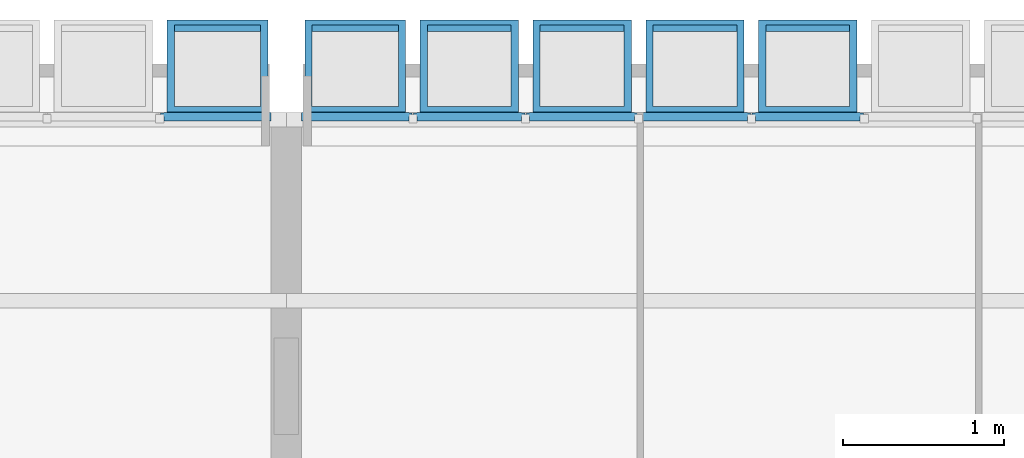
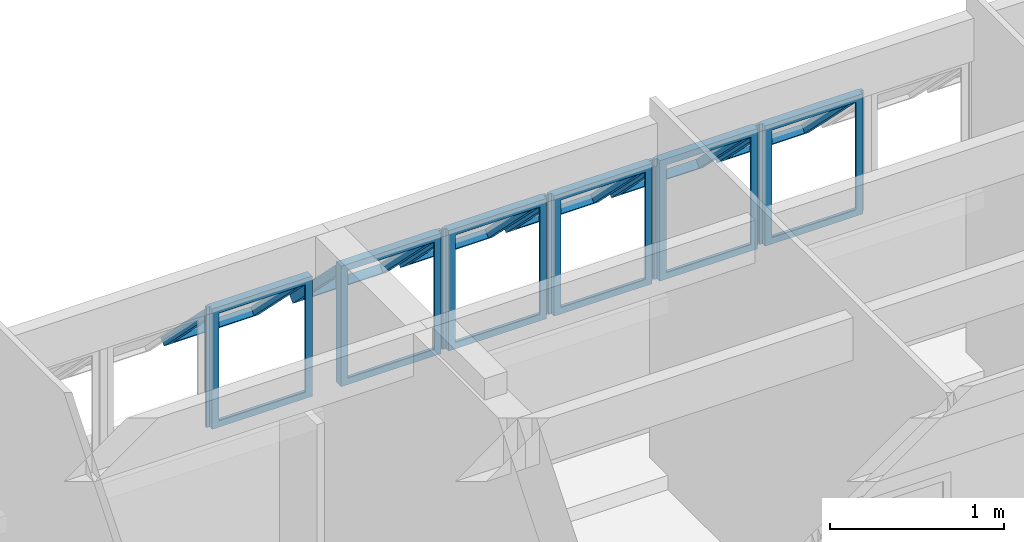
# One storey, part 34 of 37: 6 building element parts, 8 elements without a shape of their own.
"""IFC2X3 building model written with IfcOpenShell, lengths in millimetres."""

from ifc_helpers import new_model, entity, si_unit, converted_unit, derived_unit, money_unit, direction, frame, origin_with_axes, place, context, subcontext, project, spatial, faceted_brep, source, transform, mapped, material, type_object, element, aggregate, save


model = new_model("IFC2X3")

# Units and contexts
model_context = context("Model", 3, precision=0.01, world=origin_with_axes(), true_north=direction((0.0, 1.0)))
body_context = subcontext(model_context, "Body", "Model", "MODEL_VIEW")
ifc_project = project(units=[si_unit("LENGTHUNIT", "METRE", prefix="MILLI"), si_unit("AREAUNIT", "SQUARE_METRE"), si_unit("VOLUMEUNIT", "CUBIC_METRE"), converted_unit("PLANEANGLEUNIT", "DEGREE", entity("IfcPlaneAngleMeasure", 0.0174532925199), si_unit("PLANEANGLEUNIT", "RADIAN"), dimensions=[0, 0, 0, 0, 0, 0, 0]), money_unit("USD"), converted_unit("TIMEUNIT", "Year", entity("IfcTimeMeasure", 31556926.0), si_unit("TIMEUNIT", "SECOND"), dimensions=[0, 0, 1, 0, 0, 0, 0]), si_unit("MASSUNIT", "GRAM", prefix="KILO"), si_unit("THERMODYNAMICTEMPERATUREUNIT", "DEGREE_CELSIUS"), si_unit("LUMINOUSINTENSITYUNIT", "LUMEN"), si_unit("ENERGYUNIT", "JOULE", prefix="MEGA"), derived_unit("THERMALCONDUCTANCEUNIT", [(si_unit("POWERUNIT", "WATT"), 1), (si_unit("LENGTHUNIT", "METRE"), -1), (si_unit("THERMODYNAMICTEMPERATUREUNIT", "KELVIN"), -1)]), derived_unit("SPECIFICHEATCAPACITYUNIT", [(si_unit("ENERGYUNIT", "JOULE"), 1), (si_unit("MASSUNIT", "GRAM", prefix="KILO"), -1), (si_unit("THERMODYNAMICTEMPERATUREUNIT", "KELVIN"), -1)]), derived_unit("MASSDENSITYUNIT", [(si_unit("MASSUNIT", "GRAM", prefix="KILO"), 1), (si_unit("VOLUMEUNIT", "CUBIC_METRE"), -1)])], contexts=[model_context])

# Site, building, storey
site_placement = place(None, origin_with_axes())
site = spatial("IfcSite", under=ifc_project, at=site_placement, Name="Local", CompositionType="ELEMENT")
building_placement = place(site_placement, origin_with_axes())
building = spatial("IfcBuilding", under=site, at=building_placement, Name="Construção", CompositionType="ELEMENT")
storey_placement = place(building_placement, frame((0.0, 0.0, 5300.0), z_axis=(0.0, 0.0, 1.0), x_axis=(1.0, 0.0, 0.0)))
storey = spatial("IfcBuildingStorey", under=building, at=storey_placement, Name="Terceiro Pavimento", CompositionType="ELEMENT", Elevation=5300.0)

# Window, plates, building element parts
window_style = type_object("IfcWindowStyle", Name="Tipo de Parede Cortina", ConstructionType="NOTDEFINED", OperationType="NOTDEFINED", ParameterTakesPrecedence=False, Sizeable=False)
window_1_placement = place(storey_placement, frame((8520.0, 25844.9790225, 1355.02054151), z_axis=(0.0, 0.0, 1.0), x_axis=(1.0, 0.0, 0.0)))
window_1 = element("IfcWindow", 1, at=window_1_placement, inside=storey, type_object=window_style, Name="APTO12-JANELA-001")
plate_type_1 = type_object("IfcPlateType", Name="Painel Principal 690 x 845 x 20", PredefinedType="CURTAIN_PANEL")
plate_1_placement = place(window_1_placement, frame((0.0, 0.0, 422.499945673), z_axis=(0.0, 0.0, 1.0), x_axis=(1.0, 0.0, 0.0)))
plate_1 = element("IfcPlate", 2, at=plate_1_placement, type_object=plate_type_1, Name="APTO12-Painel-Prin-030")
ifc_material = material(Name="Alumínio")
shared_shape_1 = source(origin_with_axes(), body_context, "Body", "Brep", [
    faceted_brep([(25.0000036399, 0.0, -40.0), (674.999997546, 0.0, -40.0), (674.999997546, 0.0, -35.0), (25.0000036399, 0.0, -35.0), (70.0000036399, 45.0, -40.0), (629.999997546, 45.0, -40.0), (629.999997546, 45.0, -35.0), (70.0000036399, 45.0, -35.0)], [[[0, 1, 2, 3]], [[0, 4, 5, 1]], [[1, 5, 6, 2]], [[3, 2, 6, 7]], [[4, 0, 3, 7]], [[5, 4, 7, 6]]]),
    faceted_brep([(674.999997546, 0.0, -40.0), (674.999997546, 844.999891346, -40.0), (674.999997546, 844.999891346, -35.0), (674.999997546, 0.0, -35.0), (629.999997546, 45.0, -40.0), (629.999997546, 799.999891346, -40.0), (629.999997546, 799.999891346, -35.0), (629.999997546, 45.0, -35.0)], [[[0, 1, 2, 3]], [[0, 4, 5, 1]], [[1, 5, 6, 2]], [[3, 2, 6, 7]], [[4, 0, 3, 7]], [[5, 4, 7, 6]]]),
    faceted_brep([(25.0000036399, 844.999891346, -40.0), (70.0000036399, 799.999891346, -40.0), (70.0000036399, 799.999891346, -35.0), (25.0000036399, 844.999891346, -35.0), (674.999997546, 844.999891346, -40.0), (629.999997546, 799.999891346, -40.0), (629.999997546, 799.999891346, -35.0), (674.999997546, 844.999891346, -35.0)], [[[0, 1, 2, 3]], [[0, 4, 5, 1]], [[1, 5, 6, 2]], [[3, 2, 6, 7]], [[4, 0, 3, 7]], [[5, 4, 7, 6]]]),
    faceted_brep([(25.0000036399, 0.0, -40.0), (70.0000036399, 45.0, -40.0), (70.0000036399, 45.0, -35.0), (25.0000036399, 0.0, -35.0), (25.0000036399, 844.999891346, -40.0), (70.0000036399, 799.999891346, -40.0), (70.0000036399, 799.999891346, -35.0), (25.0000036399, 844.999891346, -35.0)], [[[0, 1, 2, 3]], [[0, 4, 5, 1]], [[1, 5, 6, 2]], [[3, 2, 6, 7]], [[4, 0, 3, 7]], [[5, 4, 7, 6]]]),
    faceted_brep([(25.0000036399, 0.0, -35.0), (674.999997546, 0.0, -35.0), (674.999997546, 0.0, 15.0), (25.0000036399, 0.0, 15.0), (45.0000036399, 20.0, -35.0), (654.999997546, 20.0, -35.0), (654.999997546, 20.0, 15.0), (45.0000036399, 20.0, 15.0)], [[[0, 1, 2, 3]], [[0, 4, 5, 1]], [[1, 5, 6, 2]], [[3, 2, 6, 7]], [[4, 0, 3, 7]], [[5, 4, 7, 6]]]),
    faceted_brep([(674.999997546, 0.0, -35.0), (674.999997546, 844.999891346, -35.0), (674.999997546, 844.999891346, 15.0), (674.999997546, 0.0, 15.0), (654.999997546, 20.0, -35.0), (654.999997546, 824.999891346, -35.0), (654.999997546, 824.999891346, 15.0), (654.999997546, 20.0, 15.0)], [[[0, 1, 2, 3]], [[0, 4, 5, 1]], [[1, 5, 6, 2]], [[3, 2, 6, 7]], [[4, 0, 3, 7]], [[5, 4, 7, 6]]]),
    faceted_brep([(25.0000036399, 844.999891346, -35.0), (45.0000036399, 824.999891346, -35.0), (45.0000036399, 824.999891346, 15.0), (25.0000036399, 844.999891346, 15.0), (674.999997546, 844.999891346, -35.0), (654.999997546, 824.999891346, -35.0), (654.999997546, 824.999891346, 15.0), (674.999997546, 844.999891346, 15.0)], [[[0, 1, 2, 3]], [[0, 4, 5, 1]], [[1, 5, 6, 2]], [[3, 2, 6, 7]], [[4, 0, 3, 7]], [[5, 4, 7, 6]]]),
    faceted_brep([(25.0000036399, 0.0, -35.0), (45.0000036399, 20.0, -35.0), (45.0000036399, 20.0, 15.0), (25.0000036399, 0.0, 15.0), (25.0000036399, 844.999891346, -35.0), (45.0000036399, 824.999891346, -35.0), (45.0000036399, 824.999891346, 15.0), (25.0000036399, 844.999891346, 15.0)], [[[0, 1, 2, 3]], [[0, 4, 5, 1]], [[1, 5, 6, 2]], [[3, 2, 6, 7]], [[4, 0, 3, 7]], [[5, 4, 7, 6]]]),
    faceted_brep([(694.999995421, 0.0, -10.0), (694.999995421, 844.999891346, -10.0), (694.999995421, 844.999891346, 10.0), (694.999995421, 0.0, 10.0), (674.999997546, 0.0, -10.0), (674.999997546, 844.999891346, -10.0), (674.999997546, 844.999891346, 10.0), (674.999997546, 0.0, 10.0)], [[[0, 1, 2, 3]], [[0, 4, 5, 1]], [[1, 5, 6, 2]], [[3, 2, 6, 7]], [[4, 0, 3, 7]], [[5, 4, 7, 6]]]),
    faceted_brep([(5.00000576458, 844.999891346, -10.0), (5.00000576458, 0.0, -10.0), (5.00000576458, 0.0, 10.0), (5.00000576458, 844.999891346, 10.0), (25.0000036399, 844.999891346, -10.0), (25.0000036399, 0.0, -10.0), (25.0000036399, 0.0, 10.0), (25.0000036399, 844.999891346, 10.0)], [[[0, 1, 2, 3]], [[0, 4, 5, 1]], [[1, 5, 6, 2]], [[3, 2, 6, 7]], [[4, 0, 3, 7]], [[5, 4, 7, 6]]]),
    faceted_brep([(90.0000036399, 252.243475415, 517.045737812), (90.0000036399, 757.824747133, 11.4644660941), (90.0000036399, 796.715620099, 50.3553390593), (90.0000036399, 291.13434838, 555.936610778), (45.0000036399, 220.423670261, 548.865542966), (45.0000036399, 789.644552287, -20.3553390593), (45.0000036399, 828.535425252, 18.5355339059), (45.0000036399, 259.314543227, 587.756415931)], [[[0, 1, 2, 3]], [[0, 4, 5, 1]], [[1, 5, 6, 2]], [[3, 2, 6, 7]], [[4, 0, 3, 7]], [[5, 4, 7, 6]]]),
    faceted_brep([(654.999997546, 220.423670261, 548.865542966), (654.999997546, 789.644552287, -20.3553390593), (654.999997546, 828.535425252, 18.5355339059), (654.999997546, 259.314543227, 587.756415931), (609.999997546, 252.243475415, 517.045737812), (609.999997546, 757.824747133, 11.4644660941), (609.999997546, 796.715620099, 50.3553390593), (609.999997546, 291.13434838, 555.936610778)], [[[0, 1, 2, 3]], [[0, 4, 5, 1]], [[1, 5, 6, 2]], [[3, 2, 6, 7]], [[4, 0, 3, 7]], [[5, 4, 7, 6]]]),
    faceted_brep([(654.999997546, 220.423670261, 548.865542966), (609.999997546, 252.243475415, 517.045737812), (609.999997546, 291.13434838, 555.936610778), (654.999997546, 259.314543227, 587.756415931), (45.0000036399, 220.423670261, 548.865542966), (90.0000036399, 252.243475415, 517.045737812), (90.0000036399, 291.13434838, 555.936610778), (45.0000036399, 259.314543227, 587.756415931)], [[[0, 1, 2, 3]], [[0, 4, 5, 1]], [[1, 5, 6, 2]], [[3, 2, 6, 7]], [[4, 0, 3, 7]], [[5, 4, 7, 6]]]),
    faceted_brep([(45.0000036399, 789.644552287, -20.3553390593), (90.0000036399, 757.824747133, 11.4644660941), (90.0000036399, 796.715620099, 50.3553390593), (45.0000036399, 828.535425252, 18.5355339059), (654.999997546, 789.644552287, -20.3553390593), (609.999997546, 757.824747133, 11.4644660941), (609.999997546, 796.715620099, 50.3553390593), (654.999997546, 828.535425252, 18.5355339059)], [[[0, 1, 2, 3]], [[0, 4, 5, 1]], [[1, 5, 6, 2]], [[3, 2, 6, 7]], [[4, 0, 3, 7]], [[5, 4, 7, 6]]]),
])
building_element_part_1_placement = place(plate_1_placement, origin_with_axes())
building_element_part_1 = element("IfcBuildingElementPart", 3, at=building_element_part_1_placement, material=ifc_material, Name="Alumínio", context=body_context, shape_type="MappedRepresentation", body=[
    mapped(shared_shape_1, transform((350.0, 0.0, -422.499945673), x_axis=(-1.0, 0.0, 0.0), y_axis=(0.0, 0.0, 1.0), z_axis=(0.0, 1.0, 0.0))),
])
aggregate(plate_1, [building_element_part_1])
plate_2_placement = place(window_1_placement, frame((700.0, 0.0, 422.499945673), z_axis=(0.0, 0.0, 1.0), x_axis=(1.0, 0.0, 0.0)))
plate_2 = element("IfcPlate", 4, at=plate_2_placement, type_object=plate_type_1, Name="APTO12-Painel-Prin-020")
building_element_part_2_placement = place(plate_2_placement, origin_with_axes())
building_element_part_2 = element("IfcBuildingElementPart", 5, at=building_element_part_2_placement, material=ifc_material, Name="Alumínio", context=body_context, shape_type="MappedRepresentation", body=[
    mapped(shared_shape_1, transform((350.0, 0.0, -422.499945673), x_axis=(-1.0, 0.0, 0.0), y_axis=(0.0, 0.0, 1.0), z_axis=(0.0, 1.0, 0.0))),
])
aggregate(plate_2, [building_element_part_2])
plate_3_placement = place(window_1_placement, frame((1400.0, 0.0, 422.499945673), z_axis=(0.0, 0.0, 1.0), x_axis=(1.0, 0.0, 0.0)))
plate_3 = element("IfcPlate", 6, at=plate_3_placement, type_object=plate_type_1, Name="APTO12-Painel-Prin-029")
building_element_part_3_placement = place(plate_3_placement, origin_with_axes())
building_element_part_3 = element("IfcBuildingElementPart", 7, at=building_element_part_3_placement, material=ifc_material, Name="Alumínio", context=body_context, shape_type="MappedRepresentation", body=[
    mapped(shared_shape_1, transform((350.0, 0.0, -422.499945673), x_axis=(-1.0, 0.0, 0.0), y_axis=(0.0, 0.0, 1.0), z_axis=(0.0, 1.0, 0.0))),
])
aggregate(plate_3, [building_element_part_3])
plate_type_2 = type_object("IfcPlateType", Name="Painel Principal 685 x 845 x 20", PredefinedType="CURTAIN_PANEL")
plate_4_placement = place(window_1_placement, frame((-695.000037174, 0.0, 422.499953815), z_axis=(0.0, 0.0, 1.0), x_axis=(1.0, 0.0, 0.0)))
plate_4 = element("IfcPlate", 8, at=plate_4_placement, type_object=plate_type_2, Name="APTO12-Painel-Prin-031")
shared_shape_2 = source(origin_with_axes(), body_context, "Body", "Brep", [
    faceted_brep([(25.0000046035, 0.0, -40.0), (690.000079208, 0.0, -40.0), (690.000079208, 0.0, -35.0), (25.0000046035, 0.0, -35.0), (70.0000046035, 45.0, -40.0), (645.000079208, 45.0, -40.0), (645.000079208, 45.0, -35.0), (70.0000046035, 45.0, -35.0)], [[[0, 1, 2, 3]], [[0, 4, 5, 1]], [[1, 5, 6, 2]], [[3, 2, 6, 7]], [[4, 0, 3, 7]], [[5, 4, 7, 6]]]),
    faceted_brep([(690.000079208, 0.0, -40.0), (690.000079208, 844.999923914, -40.0), (690.000079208, 844.999923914, -35.0), (690.000079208, 0.0, -35.0), (645.000079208, 45.0, -40.0), (645.000079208, 799.999923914, -40.0), (645.000079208, 799.999923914, -35.0), (645.000079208, 45.0, -35.0)], [[[0, 1, 2, 3]], [[0, 4, 5, 1]], [[1, 5, 6, 2]], [[3, 2, 6, 7]], [[4, 0, 3, 7]], [[5, 4, 7, 6]]]),
    faceted_brep([(25.0000046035, 844.999923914, -40.0), (70.0000046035, 799.999923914, -40.0), (70.0000046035, 799.999923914, -35.0), (25.0000046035, 844.999923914, -35.0), (690.000079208, 844.999923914, -40.0), (645.000079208, 799.999923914, -40.0), (645.000079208, 799.999923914, -35.0), (690.000079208, 844.999923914, -35.0)], [[[0, 1, 2, 3]], [[0, 4, 5, 1]], [[1, 5, 6, 2]], [[3, 2, 6, 7]], [[4, 0, 3, 7]], [[5, 4, 7, 6]]]),
    faceted_brep([(25.0000046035, 0.0, -40.0), (70.0000046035, 45.0, -40.0), (70.0000046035, 45.0, -35.0), (25.0000046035, 0.0, -35.0), (25.0000046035, 844.999923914, -40.0), (70.0000046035, 799.999923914, -40.0), (70.0000046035, 799.999923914, -35.0), (25.0000046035, 844.999923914, -35.0)], [[[0, 1, 2, 3]], [[0, 4, 5, 1]], [[1, 5, 6, 2]], [[3, 2, 6, 7]], [[4, 0, 3, 7]], [[5, 4, 7, 6]]]),
    faceted_brep([(25.0000046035, 0.0, -35.0), (690.000079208, 0.0, -35.0), (690.000079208, 0.0, 15.0), (25.0000046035, 0.0, 15.0), (45.0000046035, 20.0, -35.0), (670.000079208, 20.0, -35.0), (670.000079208, 20.0, 15.0), (45.0000046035, 20.0, 15.0)], [[[0, 1, 2, 3]], [[0, 4, 5, 1]], [[1, 5, 6, 2]], [[3, 2, 6, 7]], [[4, 0, 3, 7]], [[5, 4, 7, 6]]]),
    faceted_brep([(690.000079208, 0.0, -35.0), (690.000079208, 844.999923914, -35.0), (690.000079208, 844.999923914, 15.0), (690.000079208, 0.0, 15.0), (670.000079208, 20.0, -35.0), (670.000079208, 824.999923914, -35.0), (670.000079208, 824.999923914, 15.0), (670.000079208, 20.0, 15.0)], [[[0, 1, 2, 3]], [[0, 4, 5, 1]], [[1, 5, 6, 2]], [[3, 2, 6, 7]], [[4, 0, 3, 7]], [[5, 4, 7, 6]]]),
    faceted_brep([(25.0000046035, 844.999923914, -35.0), (45.0000046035, 824.999923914, -35.0), (45.0000046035, 824.999923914, 15.0), (25.0000046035, 844.999923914, 15.0), (690.000079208, 844.999923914, -35.0), (670.000079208, 824.999923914, -35.0), (670.000079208, 824.999923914, 15.0), (690.000079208, 844.999923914, 15.0)], [[[0, 1, 2, 3]], [[0, 4, 5, 1]], [[1, 5, 6, 2]], [[3, 2, 6, 7]], [[4, 0, 3, 7]], [[5, 4, 7, 6]]]),
    faceted_brep([(25.0000046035, 0.0, -35.0), (45.0000046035, 20.0, -35.0), (45.0000046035, 20.0, 15.0), (25.0000046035, 0.0, 15.0), (25.0000046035, 844.999923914, -35.0), (45.0000046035, 824.999923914, -35.0), (45.0000046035, 824.999923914, 15.0), (25.0000046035, 844.999923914, 15.0)], [[[0, 1, 2, 3]], [[0, 4, 5, 1]], [[1, 5, 6, 2]], [[3, 2, 6, 7]], [[4, 0, 3, 7]], [[5, 4, 7, 6]]]),
    faceted_brep([(5.00000595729, 844.999923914, -10.0), (5.00000595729, 0.0, -10.0), (5.00000595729, 0.0, 10.0), (5.00000595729, 844.999923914, 10.0), (25.0000046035, 844.999923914, -10.0), (25.0000046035, 0.0, -10.0), (25.0000046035, 0.0, 10.0), (25.0000046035, 844.999923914, 10.0)], [[[0, 1, 2, 3]], [[0, 4, 5, 1]], [[1, 5, 6, 2]], [[3, 2, 6, 7]], [[4, 0, 3, 7]], [[5, 4, 7, 6]]]),
    faceted_brep([(90.0000046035, 252.243484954, 517.045760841), (90.0000046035, 757.824779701, 11.4644660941), (90.0000046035, 796.715652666, 50.3553390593), (90.0000046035, 291.134357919, 555.936633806), (45.0000046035, 220.4236798, 548.865565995), (45.0000046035, 789.644584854, -20.3553390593), (45.0000046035, 828.535457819, 18.5355339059), (45.0000046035, 259.314552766, 587.75643896)], [[[0, 1, 2, 3]], [[0, 4, 5, 1]], [[1, 5, 6, 2]], [[3, 2, 6, 7]], [[4, 0, 3, 7]], [[5, 4, 7, 6]]]),
    faceted_brep([(670.000079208, 220.4236798, 548.865565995), (670.000079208, 789.644584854, -20.3553390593), (670.000079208, 828.535457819, 18.5355339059), (670.000079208, 259.314552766, 587.75643896), (625.000079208, 252.243484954, 517.045760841), (625.000079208, 757.824779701, 11.4644660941), (625.000079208, 796.715652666, 50.3553390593), (625.000079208, 291.134357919, 555.936633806)], [[[0, 1, 2, 3]], [[0, 4, 5, 1]], [[1, 5, 6, 2]], [[3, 2, 6, 7]], [[4, 0, 3, 7]], [[5, 4, 7, 6]]]),
    faceted_brep([(670.000079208, 220.4236798, 548.865565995), (625.000079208, 252.243484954, 517.045760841), (625.000079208, 291.134357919, 555.936633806), (670.000079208, 259.314552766, 587.75643896), (45.0000046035, 220.4236798, 548.865565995), (90.0000046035, 252.243484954, 517.045760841), (90.0000046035, 291.134357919, 555.936633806), (45.0000046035, 259.314552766, 587.75643896)], [[[0, 1, 2, 3]], [[0, 4, 5, 1]], [[1, 5, 6, 2]], [[3, 2, 6, 7]], [[4, 0, 3, 7]], [[5, 4, 7, 6]]]),
    faceted_brep([(45.0000046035, 789.644584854, -20.3553390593), (90.0000046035, 757.824779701, 11.4644660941), (90.0000046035, 796.715652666, 50.3553390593), (45.0000046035, 828.535457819, 18.5355339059), (670.000079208, 789.644584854, -20.3553390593), (625.000079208, 757.824779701, 11.4644660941), (625.000079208, 796.715652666, 50.3553390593), (670.000079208, 828.535457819, 18.5355339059)], [[[0, 1, 2, 3]], [[0, 4, 5, 1]], [[1, 5, 6, 2]], [[3, 2, 6, 7]], [[4, 0, 3, 7]], [[5, 4, 7, 6]]]),
])
building_element_part_4_placement = place(plate_4_placement, origin_with_axes())
building_element_part_4 = element("IfcBuildingElementPart", 9, at=building_element_part_4_placement, material=ifc_material, Name="Alumínio", context=body_context, shape_type="MappedRepresentation", body=[
    mapped(shared_shape_2, transform((345.000037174, 0.0, -422.499953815), x_axis=(-1.0, 0.0, 0.0), y_axis=(0.0, 0.0, 1.0), z_axis=(0.0, 1.0, 0.0))),
])
aggregate(plate_4, [building_element_part_4])
plate_5_placement = place(window_1_placement, frame((2100.0, 0.0, 422.499945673), z_axis=(0.0, 0.0, 1.0), x_axis=(1.0, 0.0, 0.0)))
plate_5 = element("IfcPlate", 10, at=plate_5_placement, type_object=plate_type_1, Name="APTO12-Painel-Prin-025")
aggregate(window_1, [plate_1, plate_4, plate_5, plate_2, plate_3])
shared_shape_3 = source(origin_with_axes(), body_context, "Body", "Brep", [
    faceted_brep([(25.0000036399, 0.0, -40.0), (674.999997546, 0.0, -40.0), (674.999997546, 0.0, -35.0), (25.0000036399, 0.0, -35.0), (70.0000036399, 45.0, -40.0), (629.999997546, 45.0, -40.0), (629.999997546, 45.0, -35.0), (70.0000036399, 45.0, -35.0)], [[[0, 1, 2, 3]], [[0, 4, 5, 1]], [[1, 5, 6, 2]], [[3, 2, 6, 7]], [[4, 0, 3, 7]], [[5, 4, 7, 6]]]),
    faceted_brep([(674.999997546, 0.0, -40.0), (674.999997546, 844.999891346, -40.0), (674.999997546, 844.999891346, -35.0), (674.999997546, 0.0, -35.0), (629.999997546, 45.0, -40.0), (629.999997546, 799.999891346, -40.0), (629.999997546, 799.999891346, -35.0), (629.999997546, 45.0, -35.0)], [[[0, 1, 2, 3]], [[0, 4, 5, 1]], [[1, 5, 6, 2]], [[3, 2, 6, 7]], [[4, 0, 3, 7]], [[5, 4, 7, 6]]]),
    faceted_brep([(25.0000036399, 844.999891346, -40.0), (70.0000036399, 799.999891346, -40.0), (70.0000036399, 799.999891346, -35.0), (25.0000036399, 844.999891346, -35.0), (674.999997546, 844.999891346, -40.0), (629.999997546, 799.999891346, -40.0), (629.999997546, 799.999891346, -35.0), (674.999997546, 844.999891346, -35.0)], [[[0, 1, 2, 3]], [[0, 4, 5, 1]], [[1, 5, 6, 2]], [[3, 2, 6, 7]], [[4, 0, 3, 7]], [[5, 4, 7, 6]]]),
    faceted_brep([(25.0000036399, 0.0, -40.0), (70.0000036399, 45.0, -40.0), (70.0000036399, 45.0, -35.0), (25.0000036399, 0.0, -35.0), (25.0000036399, 844.999891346, -40.0), (70.0000036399, 799.999891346, -40.0), (70.0000036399, 799.999891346, -35.0), (25.0000036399, 844.999891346, -35.0)], [[[0, 1, 2, 3]], [[0, 4, 5, 1]], [[1, 5, 6, 2]], [[3, 2, 6, 7]], [[4, 0, 3, 7]], [[5, 4, 7, 6]]]),
    faceted_brep([(25.0000036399, 0.0, -35.0), (674.999997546, 0.0, -35.0), (674.999997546, 0.0, 15.0), (25.0000036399, 0.0, 15.0), (45.0000036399, 20.0, -35.0), (654.999997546, 20.0, -35.0), (654.999997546, 20.0, 15.0), (45.0000036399, 20.0, 15.0)], [[[0, 1, 2, 3]], [[0, 4, 5, 1]], [[1, 5, 6, 2]], [[3, 2, 6, 7]], [[4, 0, 3, 7]], [[5, 4, 7, 6]]]),
    faceted_brep([(674.999997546, 0.0, -35.0), (674.999997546, 844.999891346, -35.0), (674.999997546, 844.999891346, 15.0), (674.999997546, 0.0, 15.0), (654.999997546, 20.0, -35.0), (654.999997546, 824.999891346, -35.0), (654.999997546, 824.999891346, 15.0), (654.999997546, 20.0, 15.0)], [[[0, 1, 2, 3]], [[0, 4, 5, 1]], [[1, 5, 6, 2]], [[3, 2, 6, 7]], [[4, 0, 3, 7]], [[5, 4, 7, 6]]]),
    faceted_brep([(25.0000036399, 844.999891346, -35.0), (45.0000036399, 824.999891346, -35.0), (45.0000036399, 824.999891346, 15.0), (25.0000036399, 844.999891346, 15.0), (674.999997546, 844.999891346, -35.0), (654.999997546, 824.999891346, -35.0), (654.999997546, 824.999891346, 15.0), (674.999997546, 844.999891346, 15.0)], [[[0, 1, 2, 3]], [[0, 4, 5, 1]], [[1, 5, 6, 2]], [[3, 2, 6, 7]], [[4, 0, 3, 7]], [[5, 4, 7, 6]]]),
    faceted_brep([(25.0000036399, 0.0, -35.0), (45.0000036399, 20.0, -35.0), (45.0000036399, 20.0, 15.0), (25.0000036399, 0.0, 15.0), (25.0000036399, 844.999891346, -35.0), (45.0000036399, 824.999891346, -35.0), (45.0000036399, 824.999891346, 15.0), (25.0000036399, 844.999891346, 15.0)], [[[0, 1, 2, 3]], [[0, 4, 5, 1]], [[1, 5, 6, 2]], [[3, 2, 6, 7]], [[4, 0, 3, 7]], [[5, 4, 7, 6]]]),
    faceted_brep([(694.999995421, 0.0, -10.0), (694.999995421, 844.999891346, -10.0), (694.999995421, 844.999891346, 10.0), (694.999995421, 0.0, 10.0), (674.999997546, 0.0, -10.0), (674.999997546, 844.999891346, -10.0), (674.999997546, 844.999891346, 10.0), (674.999997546, 0.0, 10.0)], [[[0, 1, 2, 3]], [[0, 4, 5, 1]], [[1, 5, 6, 2]], [[3, 2, 6, 7]], [[4, 0, 3, 7]], [[5, 4, 7, 6]]]),
    faceted_brep([(5.00000576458, 844.999891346, -10.0), (5.00000576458, 0.0, -10.0), (5.00000576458, 0.0, 10.0), (5.00000576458, 844.999891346, 10.0), (25.0000036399, 844.999891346, -10.0), (25.0000036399, 0.0, -10.0), (25.0000036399, 0.0, 10.0), (25.0000036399, 844.999891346, 10.0)], [[[0, 1, 2, 3]], [[0, 4, 5, 1]], [[1, 5, 6, 2]], [[3, 2, 6, 7]], [[4, 0, 3, 7]], [[5, 4, 7, 6]]]),
    faceted_brep([(90.0000036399, 252.243475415, 517.045737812), (90.0000036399, 757.824747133, 11.4644660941), (90.0000036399, 796.715620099, 50.3553390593), (90.0000036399, 291.13434838, 555.936610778), (45.0000036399, 220.423670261, 548.865542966), (45.0000036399, 789.644552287, -20.3553390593), (45.0000036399, 828.535425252, 18.5355339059), (45.0000036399, 259.314543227, 587.756415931)], [[[0, 1, 2, 3]], [[0, 4, 5, 1]], [[1, 5, 6, 2]], [[3, 2, 6, 7]], [[4, 0, 3, 7]], [[5, 4, 7, 6]]]),
    faceted_brep([(654.999997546, 220.423670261, 548.865542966), (654.999997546, 789.644552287, -20.3553390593), (654.999997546, 828.535425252, 18.5355339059), (654.999997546, 259.314543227, 587.756415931), (609.999997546, 252.243475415, 517.045737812), (609.999997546, 757.824747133, 11.4644660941), (609.999997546, 796.715620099, 50.3553390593), (609.999997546, 291.13434838, 555.936610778)], [[[0, 1, 2, 3]], [[0, 4, 5, 1]], [[1, 5, 6, 2]], [[3, 2, 6, 7]], [[4, 0, 3, 7]], [[5, 4, 7, 6]]]),
    faceted_brep([(654.999997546, 220.423670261, 548.865542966), (609.999997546, 252.243475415, 517.045737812), (609.999997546, 291.13434838, 555.936610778), (654.999997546, 259.314543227, 587.756415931), (45.0000036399, 220.423670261, 548.865542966), (90.0000036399, 252.243475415, 517.045737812), (90.0000036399, 291.13434838, 555.936610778), (45.0000036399, 259.314543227, 587.756415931)], [[[0, 1, 2, 3]], [[0, 4, 5, 1]], [[1, 5, 6, 2]], [[3, 2, 6, 7]], [[4, 0, 3, 7]], [[5, 4, 7, 6]]]),
    faceted_brep([(45.0000036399, 789.644552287, -20.3553390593), (90.0000036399, 757.824747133, 11.4644660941), (90.0000036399, 796.715620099, 50.3553390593), (45.0000036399, 828.535425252, 18.5355339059), (654.999997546, 789.644552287, -20.3553390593), (609.999997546, 757.824747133, 11.4644660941), (609.999997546, 796.715620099, 50.3553390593), (654.999997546, 828.535425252, 18.5355339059)], [[[0, 1, 2, 3]], [[0, 4, 5, 1]], [[1, 5, 6, 2]], [[3, 2, 6, 7]], [[4, 0, 3, 7]], [[5, 4, 7, 6]]]),
])
building_element_part_5_placement = place(plate_5_placement, origin_with_axes())
building_element_part_5 = element("IfcBuildingElementPart", 11, at=building_element_part_5_placement, material=ifc_material, Name="Alumínio", context=body_context, shape_type="MappedRepresentation", body=[
    mapped(shared_shape_3, transform((350.0, 0.0, -422.499945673), x_axis=(-1.0, 0.0, 0.0), y_axis=(0.0, 0.0, 1.0), z_axis=(0.0, 1.0, 0.0))),
])
aggregate(plate_5, [building_element_part_5])

# Window, plate, building element part
window_2_placement = place(storey_placement, frame((6250.0, 25844.9790225, 1355.02054151), z_axis=(0.0, 0.0, 1.0), x_axis=(1.0, 0.0, 0.0)))
window_2 = element("IfcWindow", 12, at=window_2_placement, inside=storey, type_object=window_style, Name="APTO11-JANELA-001")
plate_6_placement = place(window_2_placement, frame((695.000037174, 0.0, 422.499953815), z_axis=(0.0, 0.0, 1.0), x_axis=(-1.0, 0.0, 0.0)))
plate_6 = element("IfcPlate", 13, at=plate_6_placement, type_object=plate_type_2, Name="APTO11-Painel-Prin-031")
aggregate(window_2, [plate_6])
shared_shape_4 = source(origin_with_axes(), body_context, "Body", "Brep", [
    faceted_brep([(-25.0000046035, 0.0, -40.0), (-25.0000046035, 0.0, -35.0), (-690.000079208, 0.0, -35.0), (-690.000079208, 0.0, -40.0), (-70.0000046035, 45.0, -40.0), (-70.0000046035, 45.0, -35.0), (-645.000079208, 45.0, -35.0), (-645.000079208, 45.0, -40.0)], [[[0, 1, 2, 3]], [[4, 5, 1, 0]], [[1, 5, 6, 2]], [[3, 2, 6, 7]], [[0, 3, 7, 4]], [[7, 6, 5, 4]]]),
    faceted_brep([(-690.000079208, 0.0, -40.0), (-690.000079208, 0.0, -35.0), (-690.000079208, 844.999923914, -35.0), (-690.000079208, 844.999923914, -40.0), (-645.000079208, 45.0, -40.0), (-645.000079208, 45.0, -35.0), (-645.000079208, 799.999923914, -35.0), (-645.000079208, 799.999923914, -40.0)], [[[0, 1, 2, 3]], [[4, 5, 1, 0]], [[1, 5, 6, 2]], [[3, 2, 6, 7]], [[0, 3, 7, 4]], [[7, 6, 5, 4]]]),
    faceted_brep([(-25.0000046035, 844.999923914, -40.0), (-25.0000046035, 844.999923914, -35.0), (-70.0000046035, 799.999923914, -35.0), (-70.0000046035, 799.999923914, -40.0), (-690.000079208, 844.999923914, -40.0), (-690.000079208, 844.999923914, -35.0), (-645.000079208, 799.999923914, -35.0), (-645.000079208, 799.999923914, -40.0)], [[[0, 1, 2, 3]], [[4, 5, 1, 0]], [[1, 5, 6, 2]], [[3, 2, 6, 7]], [[0, 3, 7, 4]], [[7, 6, 5, 4]]]),
    faceted_brep([(-25.0000046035, 0.0, -40.0), (-25.0000046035, 0.0, -35.0), (-70.0000046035, 45.0, -35.0), (-70.0000046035, 45.0, -40.0), (-25.0000046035, 844.999923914, -40.0), (-25.0000046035, 844.999923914, -35.0), (-70.0000046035, 799.999923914, -35.0), (-70.0000046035, 799.999923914, -40.0)], [[[0, 1, 2, 3]], [[4, 5, 1, 0]], [[1, 5, 6, 2]], [[3, 2, 6, 7]], [[0, 3, 7, 4]], [[7, 6, 5, 4]]]),
    faceted_brep([(-25.0000046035, 0.0, -35.0), (-25.0000046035, 0.0, 15.0), (-690.000079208, 0.0, 15.0), (-690.000079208, 0.0, -35.0), (-45.0000046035, 20.0, -35.0), (-45.0000046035, 20.0, 15.0), (-670.000079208, 20.0, 15.0), (-670.000079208, 20.0, -35.0)], [[[0, 1, 2, 3]], [[4, 5, 1, 0]], [[1, 5, 6, 2]], [[3, 2, 6, 7]], [[0, 3, 7, 4]], [[7, 6, 5, 4]]]),
    faceted_brep([(-690.000079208, 0.0, -35.0), (-690.000079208, 0.0, 15.0), (-690.000079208, 844.999923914, 15.0), (-690.000079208, 844.999923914, -35.0), (-670.000079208, 20.0, -35.0), (-670.000079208, 20.0, 15.0), (-670.000079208, 824.999923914, 15.0), (-670.000079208, 824.999923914, -35.0)], [[[0, 1, 2, 3]], [[4, 5, 1, 0]], [[1, 5, 6, 2]], [[3, 2, 6, 7]], [[0, 3, 7, 4]], [[7, 6, 5, 4]]]),
    faceted_brep([(-25.0000046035, 844.999923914, -35.0), (-25.0000046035, 844.999923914, 15.0), (-45.0000046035, 824.999923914, 15.0), (-45.0000046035, 824.999923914, -35.0), (-690.000079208, 844.999923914, -35.0), (-690.000079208, 844.999923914, 15.0), (-670.000079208, 824.999923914, 15.0), (-670.000079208, 824.999923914, -35.0)], [[[0, 1, 2, 3]], [[4, 5, 1, 0]], [[1, 5, 6, 2]], [[3, 2, 6, 7]], [[0, 3, 7, 4]], [[7, 6, 5, 4]]]),
    faceted_brep([(-25.0000046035, 0.0, -35.0), (-25.0000046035, 0.0, 15.0), (-45.0000046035, 20.0, 15.0), (-45.0000046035, 20.0, -35.0), (-25.0000046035, 844.999923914, -35.0), (-25.0000046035, 844.999923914, 15.0), (-45.0000046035, 824.999923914, 15.0), (-45.0000046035, 824.999923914, -35.0)], [[[0, 1, 2, 3]], [[4, 5, 1, 0]], [[1, 5, 6, 2]], [[3, 2, 6, 7]], [[0, 3, 7, 4]], [[7, 6, 5, 4]]]),
    faceted_brep([(-5.00000595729, 844.999923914, -10.0), (-5.00000595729, 844.999923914, 10.0), (-5.00000595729, 0.0, 10.0), (-5.00000595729, 0.0, -10.0), (-25.0000046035, 844.999923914, -10.0), (-25.0000046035, 844.999923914, 10.0), (-25.0000046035, 0.0, 10.0), (-25.0000046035, 0.0, -10.0)], [[[0, 1, 2, 3]], [[4, 5, 1, 0]], [[1, 5, 6, 2]], [[3, 2, 6, 7]], [[0, 3, 7, 4]], [[7, 6, 5, 4]]]),
    faceted_brep([(-90.0000046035, 252.243484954, 517.045760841), (-90.0000046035, 291.134357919, 555.936633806), (-90.0000046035, 796.715652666, 50.3553390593), (-90.0000046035, 757.824779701, 11.4644660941), (-45.0000046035, 220.4236798, 548.865565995), (-45.0000046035, 259.314552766, 587.75643896), (-45.0000046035, 828.535457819, 18.5355339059), (-45.0000046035, 789.644584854, -20.3553390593)], [[[0, 1, 2, 3]], [[4, 5, 1, 0]], [[1, 5, 6, 2]], [[3, 2, 6, 7]], [[0, 3, 7, 4]], [[7, 6, 5, 4]]]),
    faceted_brep([(-670.000079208, 220.4236798, 548.865565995), (-670.000079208, 259.314552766, 587.75643896), (-670.000079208, 828.535457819, 18.5355339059), (-670.000079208, 789.644584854, -20.3553390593), (-625.000079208, 252.243484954, 517.045760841), (-625.000079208, 291.134357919, 555.936633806), (-625.000079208, 796.715652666, 50.3553390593), (-625.000079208, 757.824779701, 11.4644660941)], [[[0, 1, 2, 3]], [[4, 5, 1, 0]], [[1, 5, 6, 2]], [[3, 2, 6, 7]], [[0, 3, 7, 4]], [[7, 6, 5, 4]]]),
    faceted_brep([(-670.000079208, 220.4236798, 548.865565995), (-670.000079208, 259.314552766, 587.75643896), (-625.000079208, 291.134357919, 555.936633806), (-625.000079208, 252.243484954, 517.045760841), (-45.0000046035, 220.4236798, 548.865565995), (-45.0000046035, 259.314552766, 587.75643896), (-90.0000046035, 291.134357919, 555.936633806), (-90.0000046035, 252.243484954, 517.045760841)], [[[0, 1, 2, 3]], [[4, 5, 1, 0]], [[1, 5, 6, 2]], [[3, 2, 6, 7]], [[0, 3, 7, 4]], [[7, 6, 5, 4]]]),
    faceted_brep([(-45.0000046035, 789.644584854, -20.3553390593), (-45.0000046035, 828.535457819, 18.5355339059), (-90.0000046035, 796.715652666, 50.3553390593), (-90.0000046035, 757.824779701, 11.4644660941), (-670.000079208, 789.644584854, -20.3553390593), (-670.000079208, 828.535457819, 18.5355339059), (-625.000079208, 796.715652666, 50.3553390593), (-625.000079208, 757.824779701, 11.4644660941)], [[[0, 1, 2, 3]], [[4, 5, 1, 0]], [[1, 5, 6, 2]], [[3, 2, 6, 7]], [[0, 3, 7, 4]], [[7, 6, 5, 4]]]),
])
building_element_part_6_placement = place(plate_6_placement, origin_with_axes())
building_element_part_6 = element("IfcBuildingElementPart", 14, at=building_element_part_6_placement, material=ifc_material, Name="Alumínio", context=body_context, shape_type="MappedRepresentation", body=[
    mapped(shared_shape_4, transform((345.000037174, 0.0, -422.499953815), x_axis=(1.0, 0.0, 0.0), y_axis=(0.0, 0.0, 1.0), z_axis=(0.0, -1.0, 0.0))),
])
aggregate(plate_6, [building_element_part_6])

save(model, "model.ifc")
